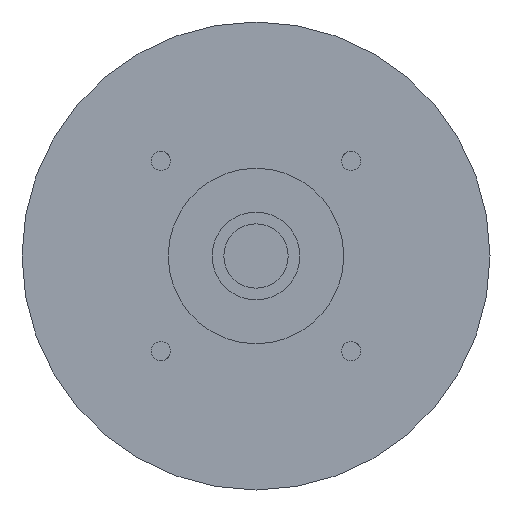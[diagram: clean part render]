
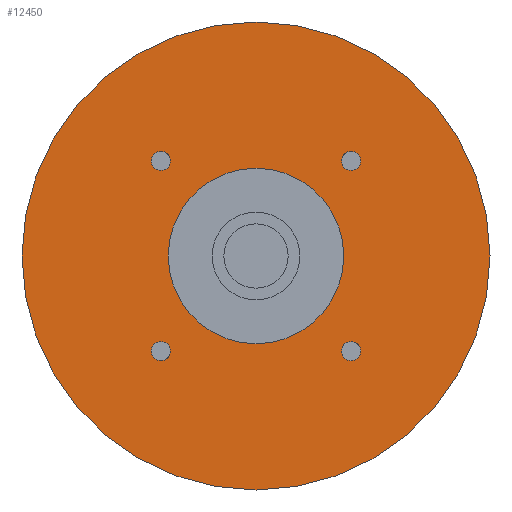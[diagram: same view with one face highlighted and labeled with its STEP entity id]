
A CAD part, left-side view. The second image highlights one B-rep face of the part: STEP entity #12450.
In plain terms, the highlighted planar face has unit normal (-1, 0, 0) as drawn and (0, 0, -1) by its records, which use the part's own axes.
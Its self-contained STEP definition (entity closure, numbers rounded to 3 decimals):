
#8680=CARTESIAN_POINT('',(-14.613,-16.263,-42.2));
#8690=VERTEX_POINT('',#8680);
#8740=CARTESIAN_POINT('',(-16.263,-16.263,-42.2));
#8750=DIRECTION('',(0.,0.,-1.));
#8760=DIRECTION('',(1.,0.,0.));
#8770=AXIS2_PLACEMENT_3D('',#8740,#8750,#8760);
#8780=CIRCLE('',#8770,1.65);
#8790=CARTESIAN_POINT('',(-17.913,-16.263,-42.2));
#8800=VERTEX_POINT('',#8790);
#8810=EDGE_CURVE('',#8800,#8690,#8780,.T.);
#9140=CARTESIAN_POINT('',(14.613,-16.263,-42.2));
#9150=VERTEX_POINT('',#9140);
#9200=CARTESIAN_POINT('',(16.263,-16.263,-42.2));
#9210=DIRECTION('',(0.,0.,-1.));
#9220=DIRECTION('',(1.,0.,0.));
#9230=AXIS2_PLACEMENT_3D('',#9200,#9210,#9220);
#9240=CIRCLE('',#9230,1.65);
#9250=CARTESIAN_POINT('',(17.913,-16.263,-42.2));
#9260=VERTEX_POINT('',#9250);
#9270=EDGE_CURVE('',#9260,#9150,#9240,.T.);
#11570=CARTESIAN_POINT('',(-40.,0.,-42.2));
#11580=VERTEX_POINT('',#11570);
#11660=CARTESIAN_POINT('',(40.,0.,-42.2));
#11670=VERTEX_POINT('',#11660);
#11700=CARTESIAN_POINT('',(0.,0.,
-42.2));
#11710=DIRECTION('',(0.,0.,1.));
#11720=DIRECTION('',(1.,0.,0.));
#11730=AXIS2_PLACEMENT_3D('',#11700,#11710,#11720);
#11740=CIRCLE('',#11730,40.);
#11750=EDGE_CURVE('',#11580,#11670,#11740,.T.);
#11800=CARTESIAN_POINT('',(0.,0.,
-42.2));
#11810=DIRECTION('',(0.,0.,-1.));
#11820=DIRECTION('',(1.,0.,0.));
#11830=AXIS2_PLACEMENT_3D('',#11800,#11810,#11820);
#11840=PLANE('',#11830);
#11850=CARTESIAN_POINT('',(-16.263,16.263,-42.2));
#11860=DIRECTION('',(0.,0.,-1.));
#11870=DIRECTION('',(1.,0.,0.));
#11880=AXIS2_PLACEMENT_3D('',#11850,#11860,#11870);
#11890=CIRCLE('',#11880,1.65);
#11900=CARTESIAN_POINT('',(-14.613,16.263,-42.2));
#11910=VERTEX_POINT('',#11900);
#11920=CARTESIAN_POINT('',(-17.913,16.263,-42.2));
#11930=VERTEX_POINT('',#11920);
#11940=EDGE_CURVE('',#11910,#11930,#11890,.T.);
#11950=ORIENTED_EDGE('',*,*,#11940,.F.);
#11960=EDGE_CURVE('',#11930,#11910,#11890,.T.);
#11970=ORIENTED_EDGE('',*,*,#11960,.F.);
#11980=EDGE_LOOP('',(#11970,#11950));
#11990=FACE_BOUND('',#11980,.T.);
#12000=CARTESIAN_POINT('',(0.,0.,
-42.2));
#12010=DIRECTION('',(0.,0.,1.));
#12020=DIRECTION('',(1.,0.,0.));
#12030=AXIS2_PLACEMENT_3D('',#12000,#12010,#12020);
#12040=CIRCLE('',#12030,15.);
#12050=CARTESIAN_POINT('',(15.,0.,-42.2));
#12060=VERTEX_POINT('',#12050);
#12070=CARTESIAN_POINT('',(-15.,0.,-42.2));
#12080=VERTEX_POINT('',#12070);
#12090=EDGE_CURVE('',#12060,#12080,#12040,.T.);
#12100=ORIENTED_EDGE('',*,*,#12090,.T.);
#12110=EDGE_CURVE('',#12080,#12060,#12040,.T.);
#12120=ORIENTED_EDGE('',*,*,#12110,.T.);
#12130=EDGE_LOOP('',(#12120,#12100));
#12140=FACE_BOUND('',#12130,.T.);
#12150=CARTESIAN_POINT('',(16.263,16.263,-42.2));
#12160=DIRECTION('',(0.,0.,-1.));
#12170=DIRECTION('',(1.,0.,0.));
#12180=AXIS2_PLACEMENT_3D('',#12150,#12160,#12170);
#12190=CIRCLE('',#12180,1.65);
#12200=CARTESIAN_POINT('',(17.913,16.263,-42.2));
#12210=VERTEX_POINT('',#12200);
#12220=CARTESIAN_POINT('',(14.613,16.263,-42.2));
#12230=VERTEX_POINT('',#12220);
#12240=EDGE_CURVE('',#12210,#12230,#12190,.T.);
#12250=ORIENTED_EDGE('',*,*,#12240,.F.);
#12260=EDGE_CURVE('',#12230,#12210,#12190,.T.);
#12270=ORIENTED_EDGE('',*,*,#12260,.F.);
#12280=EDGE_LOOP('',(#12270,#12250));
#12290=FACE_BOUND('',#12280,.T.);
#12300=ORIENTED_EDGE('',*,*,#9270,.F.);
#12310=EDGE_CURVE('',#9150,#9260,#9240,.T.);
#12320=ORIENTED_EDGE('',*,*,#12310,.F.);
#12330=EDGE_LOOP('',(#12320,#12300));
#12340=FACE_BOUND('',#12330,.T.);
#12350=EDGE_CURVE('',#8690,#8800,#8780,.T.);
#12360=ORIENTED_EDGE('',*,*,#12350,.F.);
#12370=ORIENTED_EDGE('',*,*,#8810,.F.);
#12380=EDGE_LOOP('',(#12370,#12360));
#12390=FACE_BOUND('',#12380,.T.);
#12400=EDGE_CURVE('',#11670,#11580,#11740,.T.);
#12410=ORIENTED_EDGE('',*,*,#12400,.F.);
#12420=ORIENTED_EDGE('',*,*,#11750,.F.);
#12430=EDGE_LOOP('',(#12420,#12410));
#12440=FACE_OUTER_BOUND('',#12430,.T.);
#12450=ADVANCED_FACE('',(#11990,#12140,#12290,#12340,#12390,#12440),
#11840,.T.);
